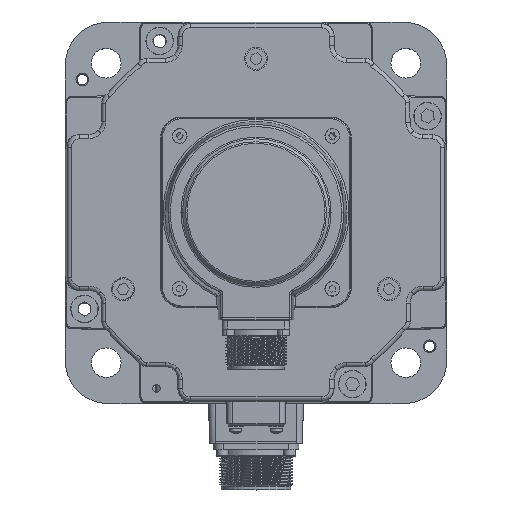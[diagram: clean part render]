
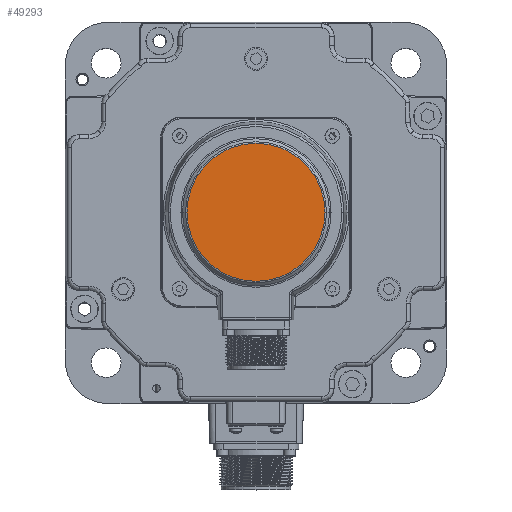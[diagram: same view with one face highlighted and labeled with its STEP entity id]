
A CAD part, top view. The second image highlights one B-rep face of the part: STEP entity #49293.
In plain terms, the highlighted planar face has unit normal (0, 0, 1).
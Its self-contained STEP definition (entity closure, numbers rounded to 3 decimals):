
#755 = CIRCLE ( 'NONE', #23602, 32.586 ) ;
#2330 = CARTESIAN_POINT ( 'NONE',  ( 0., 0., 90.7 ) ) ;
#6473 = CARTESIAN_POINT ( 'NONE',  ( 32.586, 0., 90.7 ) ) ;
#6505 = VERTEX_POINT ( 'NONE', #6473 ) ;
#7651 = DIRECTION ( 'NONE',  ( -1., 0., 0. ) ) ;
#7680 = ORIENTED_EDGE ( 'NONE', *, *, #12493, .T. ) ;
#8540 = EDGE_CURVE ( 'NONE', #6505, #72798, #65062, .T. ) ;
#12493 = EDGE_CURVE ( 'NONE', #72798, #6505, #755, .T. ) ;
#12895 = DIRECTION ( 'NONE',  ( 0., 0., 1. ) ) ;
#12919 = DIRECTION ( 'NONE',  ( 0., 0., 1. ) ) ;
#23602 = AXIS2_PLACEMENT_3D ( 'NONE', #69180, #40935, #69543 ) ;
#40935 = DIRECTION ( 'NONE',  ( 0., 0., 1. ) ) ;
#42931 = CARTESIAN_POINT ( 'NONE',  ( -32.586, 0., 90.7 ) ) ;
#43270 = EDGE_LOOP ( 'NONE', ( #7680, #55447 ) ) ;
#43489 = AXIS2_PLACEMENT_3D ( 'NONE', #52464, #12919, #7651 ) ;
#47909 = DIRECTION ( 'NONE',  ( -1., 0., 0. ) ) ;
#49293 = ADVANCED_FACE ( 'NONE', ( #59213 ), #65254, .T. ) ;
#52464 = CARTESIAN_POINT ( 'NONE',  ( 0., 0., 90.7 ) ) ;
#55447 = ORIENTED_EDGE ( 'NONE', *, *, #8540, .T. ) ;
#59213 = FACE_OUTER_BOUND ( 'NONE', #43270, .T. ) ;
#60272 = AXIS2_PLACEMENT_3D ( 'NONE', #2330, #12895, #47909 ) ;
#65062 = CIRCLE ( 'NONE', #60272, 32.586 ) ;
#65254 = PLANE ( 'NONE',  #43489 ) ;
#69180 = CARTESIAN_POINT ( 'NONE',  ( 0., 0., 90.7 ) ) ;
#69543 = DIRECTION ( 'NONE',  ( -1., 0., 0. ) ) ;
#72798 = VERTEX_POINT ( 'NONE', #42931 ) ;
